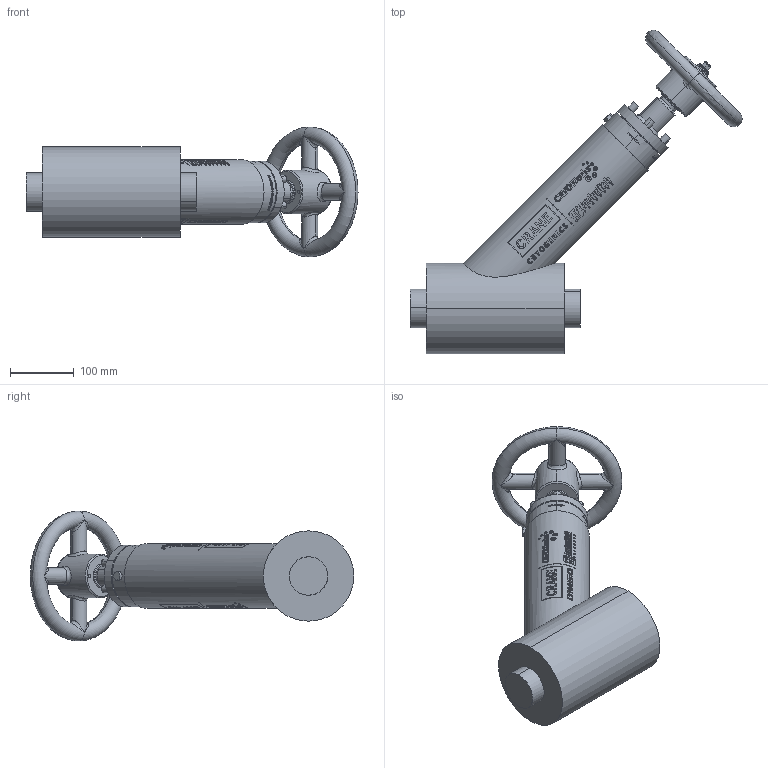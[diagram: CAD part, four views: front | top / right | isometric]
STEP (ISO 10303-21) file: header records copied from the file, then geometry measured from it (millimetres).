
FILE_DESCRIPTION (( 'STEP AP203' ), '1' );
FILE_NAME ('2IN Y-PATTERN MANUAL CRANE BELLOWS SEAL VALVE.step', '2025-12-17T20:07:13', ( '' ), ( '' ), 'SwSTEP 2.0', 'SolidWorks 2023', '' );
FILE_SCHEMA (( 'CONFIG_CONTROL_DESIGN' ));
Length unit declared in the file: inch
Products named in the file (1): 2IN Y-PATTERN MANUAL CRANE BELLOWS SEAL VALVE
Bounding box: 519.42 x 505.92 x 203.2 mm (x, y, z)
Volume: 6698705.8 mm3; surface area: 346285 mm2
Topology: 1 solids, 1 shells, 1533 faces, 3961 edges, 2617 vertices
Faces by surface type: plane 847, cylinder 386, bspline 260, cone 30, torus 10
Full cylindrical faces by diameter (mm): 1.195 x2, 1.309 x2, 1.422 x2, 1.631 x2, 1.842 x2, 2.373 x2, 2.727 x2, 3.046 x2, 3.207 x2, 3.658 x2, 4.941 x2, 6.104 x2, 7.386 x2, 8.599 x2, 101.6 x1
Entity records: 96137 total; most frequent: CARTESIAN_POINT 62928, ORIENTED_EDGE 7800, DIRECTION 5355, EDGE_CURVE 3900, VERTEX_POINT 2617, LINE 1809, VECTOR 1809, EDGE_LOOP 1799
